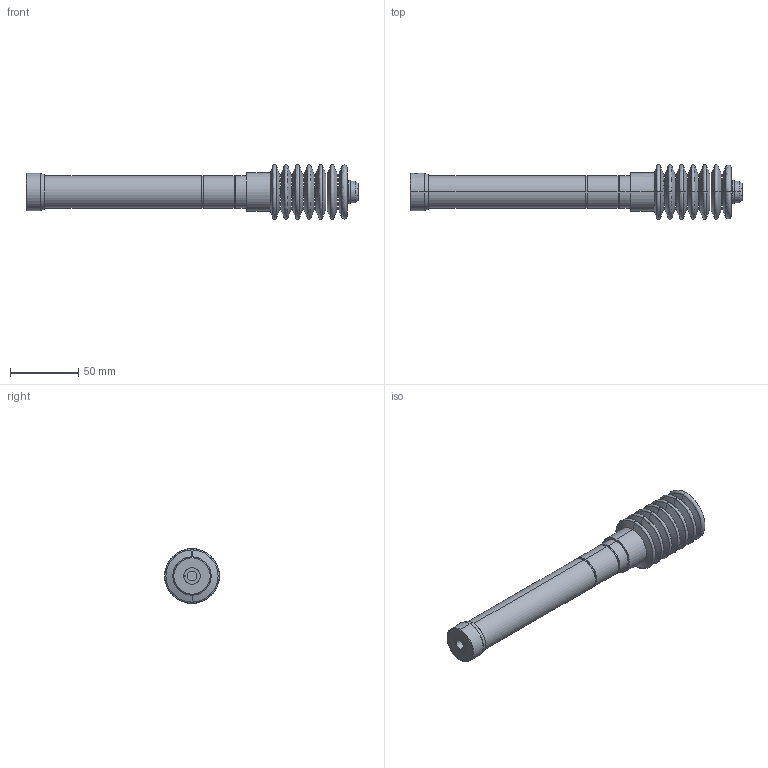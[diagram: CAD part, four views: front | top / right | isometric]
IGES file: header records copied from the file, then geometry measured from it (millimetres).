
Start section: SolidWorks IGES file using analytic representation for surfaces
Global section: file name: D:\IGS跡宒\HR30-FCZ.IGS,1; native system: 5HSolidWorks 2013; preprocessor: SolidWorks 2013; author: Administrator; date: 160406.153947; units: inch
Bounding box: 242.6 x 40 x 40 mm (x, y, z)
Surface area: 29381.9 mm2 (no closed solid volume)
Topology: 0 solids, 0 shells, 90 faces, 1269 edges, 1267 vertices
Faces by surface type: revolution 62, bspline 28
